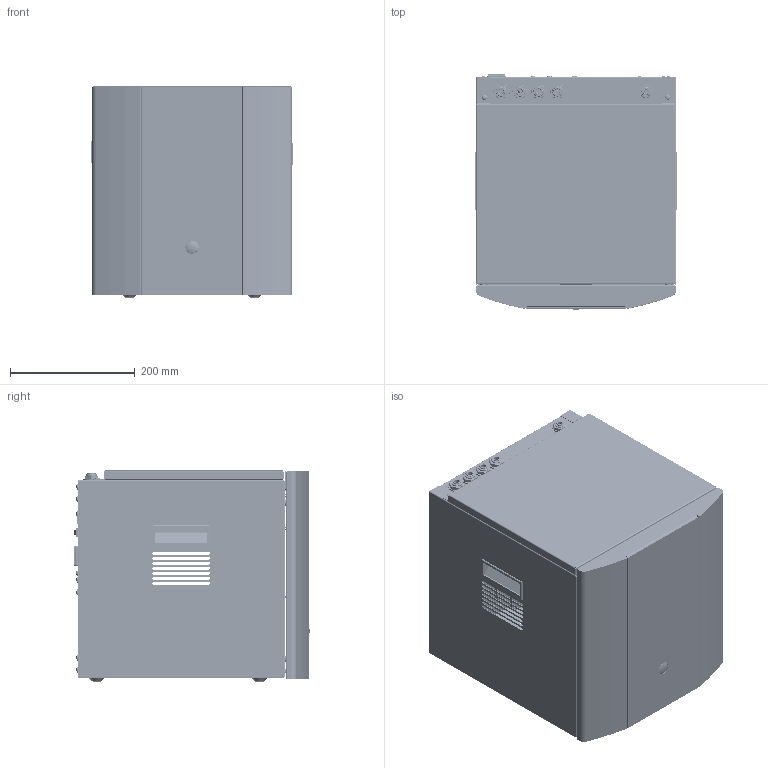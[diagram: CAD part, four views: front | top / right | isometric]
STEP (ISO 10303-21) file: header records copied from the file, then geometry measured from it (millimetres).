
FILE_DESCRIPTION(/* description */ ('STEP AP214'),/* implementation_level */ '2;1');
FILE_NAME(/* name */ '67f931b1a5b1f41ba15bafab',/* time_stamp */ '2025-04-11T15:13:58Z',/* author */ (''),/* organization */ (''),/* preprocessor_version */ 'ST-DEVELOPER v20',/* originating_system */ 'ONSHAPE BY PTC INC, 1.196',/* authorisation */ ' ');
FILE_SCHEMA (('AUTOMOTIVE_DESIGN {1 0 10303 214 3 1 1}'));
Products named in the file (33): C2/C3; 703099- No.8 x 9.5mm Pozi Pan Flange Tapping Screw (AB) in Zinc Plate
d Steel- BS 4174; 701420 - ABS Carry Handle; 451093 - M5 x 10 Self Clinch Stud; 702825 - Baseplate T-Series; 462325 - 1/4" Bulkhead Conn JG PI1208S; 451199 - 5mm x 16mm Pozi Flanged Screw; 702558 - 24VDC Fan; 702867 - Bracket T-Series RH; 701592 - Rocker Switch; 700721 - Top Panel Undercounter; 701594 - IEC Power Module; 702820 - Backplate C-Series 230V; 702879 - Casing T-Series LH; 702864 - Bracket T-Series LH; 702886 - PCB Plate T-Series; 462855 - JG 8mm Bulkhead Connector; id111; id116; id121; 702882 - Casing T-Series RH; 702808 - Blanking plug large switch; 720045 - Undercounter Door Asm <1>; id165; id170; id175; id180; id185; id190; id195
Assembly tree (61 placements, depth 3):
  C2/C3
    703099- No.8 x 9.5mm Pozi Pan Flange Tapping Screw (AB) in Zinc Plate
d Steel- BS 4174  x19
    701420 - ABS Carry Handle  x2
    451093 - M5 x 10 Self Clinch Stud
    451093 - M5 x 10 Self Clinch Stud
    451093 - M5 x 10 Self Clinch Stud
    702825 - Baseplate T-Series
    451093 - M5 x 10 Self Clinch Stud
    462325 - 1/4" Bulkhead Conn JG PI1208S
    451199 - 5mm x 16mm Pozi Flanged Screw  x4
    702558 - 24VDC Fan  x2
    702867 - Bracket T-Series RH
    701592 - Rocker Switch
    700721 - Top Panel Undercounter
    701594 - IEC Power Module
    702820 - Backplate C-Series 230V
    702879 - Casing T-Series LH
    702864 - Bracket T-Series LH
    702886 - PCB Plate T-Series
    462855 - JG 8mm Bulkhead Connector  x4
    id111  x2
    id116  x2
    id121  x2
    702882 - Casing T-Series RH
    702808 - Blanking plug large switch
    720045 - Undercounter Door Asm <1>
      id165
      id170
      id175
      id180
      id185
      id190
      id195
Bounding box: 324 x 376.51 x 337.8 mm (x, y, z)
Volume: 1376887.1 mm3; surface area: 2100705.1 mm2
Topology: 60 solids, 60 shells, 6166 faces, 16861 edges, 11042 vertices
Faces by surface type: plane 3163, cylinder 1371, bspline 1198, cone 183, torus 170, sphere 81
Full cylindrical faces by diameter (mm): 0.5 x4, 2.92 x2, 3.2 x20, 4 x6, 4.1 x1, 4.2 x31, 4.3 x16, 4.4 x6, 4.5 x5, 4.7 x4, 4.8 x3, 5 x12, 5.33 x1, 5.4 x4, 5.5 x17, 5.84 x4, 6.5 x4, 6.6 x2, 7.5 x2, 7.96 x2, 8.14 x8, 9.6 x4, 9.75 x19, 9.81 x8, 10.16 x2, 10.6 x6, 13 x8, 14 x2, 14.5 x2, 15.25 x1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
Entity records: 163020 total; most frequent: CARTESIAN_POINT 70820, ORIENTED_EDGE 19532, DIRECTION 16594, EDGE_CURVE 9766, VERTEX_POINT 6496, AXIS2_PLACEMENT_3D 5740, LINE 5114, VECTOR 5114
